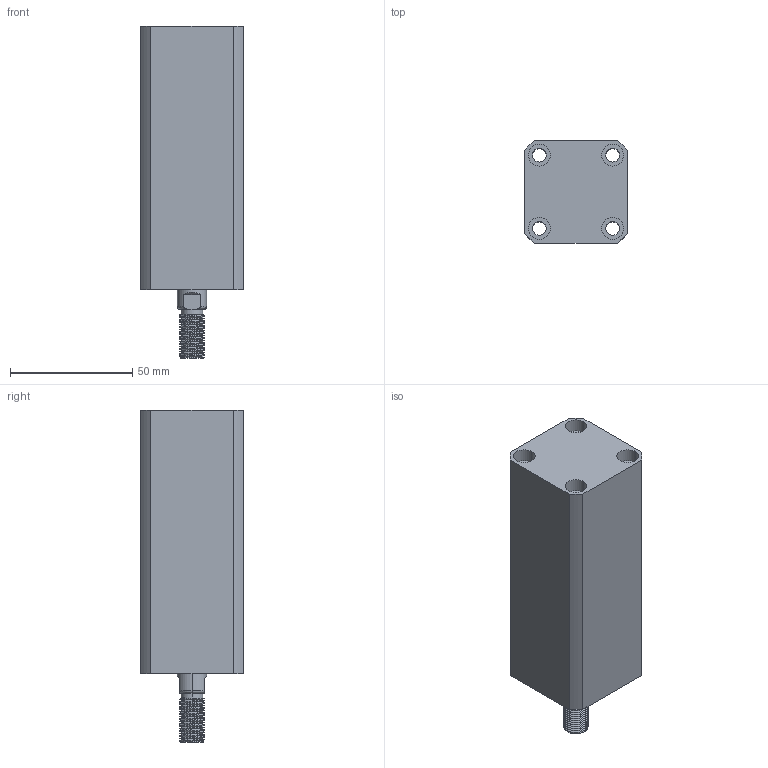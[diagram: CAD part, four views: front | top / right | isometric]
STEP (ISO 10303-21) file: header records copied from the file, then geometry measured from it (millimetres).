
FILE_DESCRIPTION (( 'STEP AP214' ), '1' );
FILE_NAME ('chtb-sd20x65w_asm.STEP', '2018-05-16T09:49:11', ( 'Windows' ), ( 'Microsoft' ), 'SwSTEP 2.0', 'SolidWorks 2015', '' );
FILE_SCHEMA (( 'AUTOMOTIVE_DESIGN' ));
Length unit declared in the file: millimetre
Products named in the file (4): QG; CHTB-SD20X65WHSG; CHTB-SD20X65NBT; chtb-sd20x65w_asm
Assembly tree (3 placements, depth 2):
  chtb-sd20x65w_asm
    CHTB-SD20X65NBT
    CHTB-SD20X65WHSG
    QG
Bounding box: 42 x 42 x 136 mm (x, y, z)
Volume: 161185.5 mm3; surface area: 46702.9 mm2
Topology: 3 solids, 3 shells, 234 faces, 624 edges, 415 vertices
Faces by surface type: cylinder 139, plane 40, torus 25, bspline 21, cone 9
Entity records: 13734 total; most frequent: CARTESIAN_POINT 8172, ORIENTED_EDGE 1240, DIRECTION 1039, EDGE_CURVE 620, AXIS2_PLACEMENT_3D 431, VERTEX_POINT 415, EDGE_LOOP 271, ADVANCED_FACE 234
